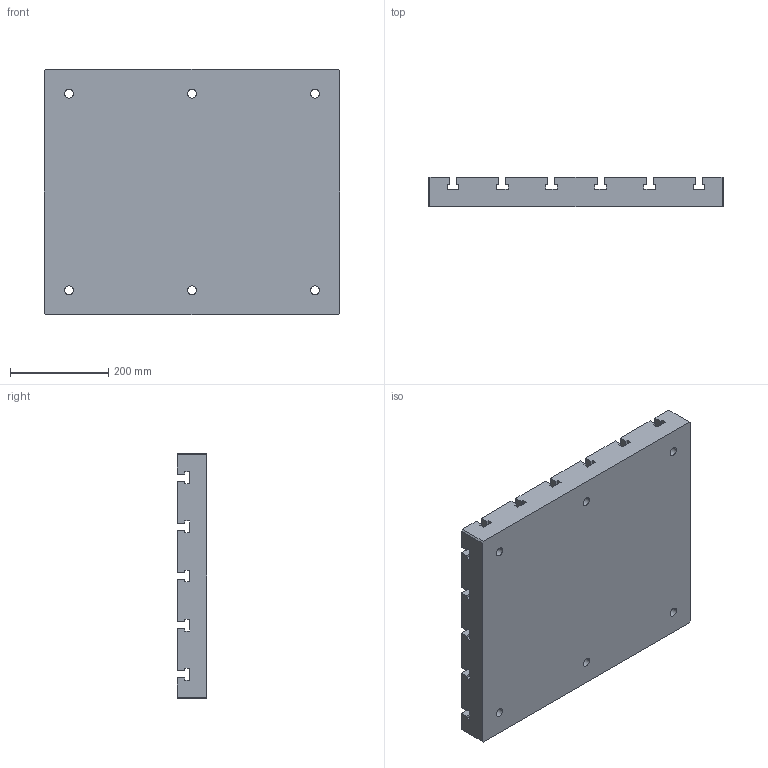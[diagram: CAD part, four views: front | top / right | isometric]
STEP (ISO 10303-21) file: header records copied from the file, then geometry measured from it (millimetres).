
FILE_DESCRIPTION((''),'2;1');
FILE_NAME('FG_WH_BASPL_RCTSLNP002','2026-05-17T10:47:02',('Admin'),(''),'CREO PARAMETRIC BY PTC INC, 2025010','CREO PARAMETRIC BY PTC INC, 2025010','');
FILE_SCHEMA(('CONFIG_CONTROL_DESIGN'));
Length unit declared in the file: millimetre
Products named in the file (1): FG_WH_BASPL_RCTSLNP002
Bounding box: 600 x 60 x 500 mm (x, y, z)
Volume: 15469473.7 mm3; surface area: 1075042.5 mm2
Topology: 1 solids, 1 shells, 434 faces, 1176 edges, 784 vertices
Faces by surface type: plane 394, cylinder 40
Entity records: 13518 total; most frequent: CARTESIAN_POINT 2394, ORIENTED_EDGE 2352, DIRECTION 2140, EDGE_CURVE 1176, VECTOR 1080, LINE 1080, VERTEX_POINT 784, AXIS2_PLACEMENT_3D 530
